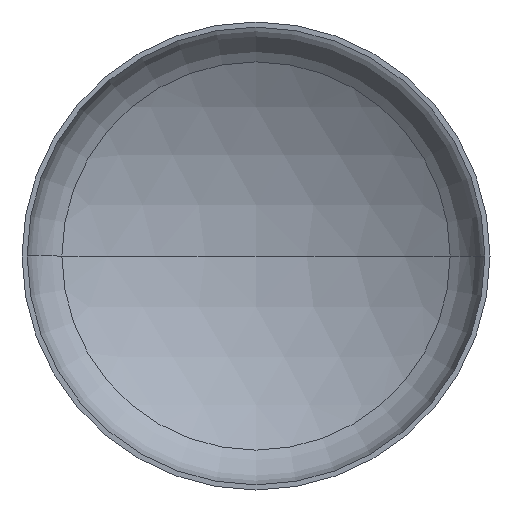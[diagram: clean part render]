
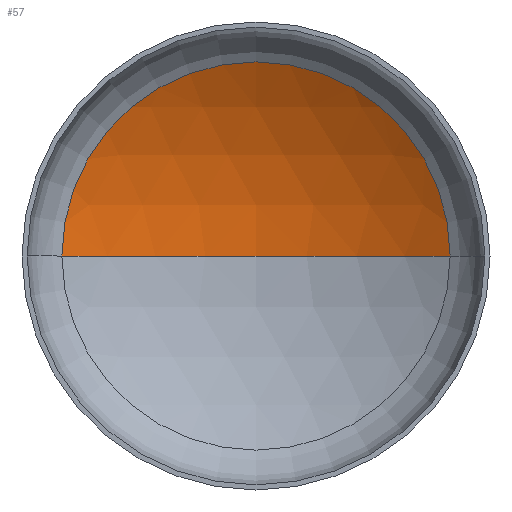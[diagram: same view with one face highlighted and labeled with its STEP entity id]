
A CAD part, front view. The second image highlights one B-rep face of the part: STEP entity #57.
In plain terms, the highlighted spherical face has radius 4800 mm.
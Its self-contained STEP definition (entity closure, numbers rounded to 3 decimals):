
#18 = VERTEX_POINT ( 'NONE', #297 ) ;
#26 = DIRECTION ( 'NONE',  ( -1., 0., 0. ) ) ;
#35 = AXIS2_PLACEMENT_3D ( 'NONE', #320, #178, #347 ) ;
#38 = VERTEX_POINT ( 'NONE', #226 ) ;
#43 = ORIENTED_EDGE ( 'NONE', *, *, #79, .T. ) ;
#57 = ADVANCED_FACE ( 'NONE', ( #137 ), #123, .F. ) ;
#58 = ORIENTED_EDGE ( 'NONE', *, *, #80, .T. ) ;
#65 = VERTEX_POINT ( 'NONE', #295 ) ;
#79 = EDGE_CURVE ( 'NONE', #38, #18, #378, .T. ) ;
#80 = EDGE_CURVE ( 'NONE', #65, #38, #200, .T. ) ;
#86 = EDGE_CURVE ( 'NONE', #65, #18, #317, .T. ) ;
#88 = AXIS2_PLACEMENT_3D ( 'NONE', #231, #388, #254 ) ;
#99 = ORIENTED_EDGE ( 'NONE', *, *, #86, .F. ) ;
#115 = EDGE_LOOP ( 'NONE', ( #99, #58, #43 ) ) ;
#123 = SPHERICAL_SURFACE ( 'NONE', #363, 4800. ) ;
#135 = AXIS2_PLACEMENT_3D ( 'NONE', #145, #322, #179 ) ;
#137 = FACE_OUTER_BOUND ( 'NONE', #115, .T. ) ;
#145 = CARTESIAN_POINT ( 'NONE',  ( 0., -3193.539, 0. ) ) ;
#164 = DIRECTION ( 'NONE',  ( 0., 0., -1. ) ) ;
#178 = DIRECTION ( 'NONE',  ( 0., -1., 0. ) ) ;
#179 = DIRECTION ( 'NONE',  ( 1., 0., 0. ) ) ;
#200 = CIRCLE ( 'NONE', #88, 4800. ) ;
#226 = CARTESIAN_POINT ( 'NONE',  ( 2488.568, 910.974, 0. ) ) ;
#231 = CARTESIAN_POINT ( 'NONE',  ( 0., -3193.539, 0. ) ) ;
#248 = CARTESIAN_POINT ( 'NONE',  ( 0., -3193.539, 0. ) ) ;
#254 = DIRECTION ( 'NONE',  ( -1., 0., 0. ) ) ;
#295 = CARTESIAN_POINT ( 'NONE',  ( 0., 1606.461, 0. ) ) ;
#297 = CARTESIAN_POINT ( 'NONE',  ( -2488.568, 910.974, 0. ) ) ;
#317 = CIRCLE ( 'NONE', #135, 4800. ) ;
#320 = CARTESIAN_POINT ( 'NONE',  ( 0., 910.974, 0. ) ) ;
#322 = DIRECTION ( 'NONE',  ( 0., 0., 1. ) ) ;
#347 = DIRECTION ( 'NONE',  ( 1., 0., 0. ) ) ;
#363 = AXIS2_PLACEMENT_3D ( 'NONE', #248, #164, #26 ) ;
#378 = CIRCLE ( 'NONE', #35, 2488.568 ) ;
#388 = DIRECTION ( 'NONE',  ( 0., 0., -1. ) ) ;
